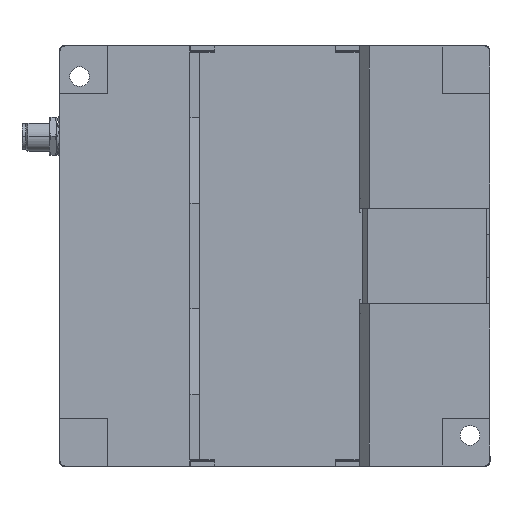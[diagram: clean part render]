
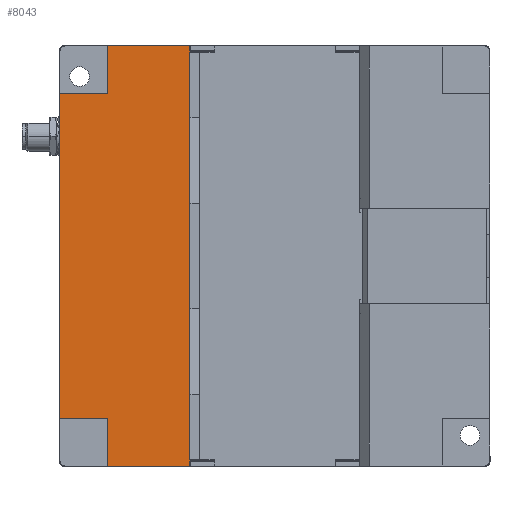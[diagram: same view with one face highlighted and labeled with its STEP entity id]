
A CAD part, front view. The second image highlights one B-rep face of the part: STEP entity #8043.
In plain terms, the highlighted planar face has unit normal (0, -1, 0).
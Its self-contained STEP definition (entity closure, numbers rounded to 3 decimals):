
#145 = DIRECTION ( 'NONE',  ( 0., 0., 1. ) ) ;
#273 = VECTOR ( 'NONE', #35163, 1000. ) ;
#2192 = VERTEX_POINT ( 'NONE', #12469 ) ;
#2677 = DIRECTION ( 'NONE',  ( 0., 1., 0. ) ) ;
#2789 = EDGE_CURVE ( 'NONE', #17184, #14215, #16725, .T. ) ;
#3341 = CARTESIAN_POINT ( 'NONE',  ( -22.4, 15.654, 11. ) ) ;
#3425 = VERTEX_POINT ( 'NONE', #9959 ) ;
#4071 = AXIS2_PLACEMENT_3D ( 'NONE', #9345, #2677, #12742 ) ;
#4182 = DIRECTION ( 'NONE',  ( 0., 0., 1. ) ) ;
#4640 = CARTESIAN_POINT ( 'NONE',  ( -22.4, 15.654, 44. ) ) ;
#4672 = VERTEX_POINT ( 'NONE', #21232 ) ;
#4725 = VECTOR ( 'NONE', #13588, 1000. ) ;
#4757 = DIRECTION ( 'NONE',  ( 0., 0., 1. ) ) ;
#5342 = DIRECTION ( 'NONE',  ( 1., 0., 0. ) ) ;
#6236 = VERTEX_POINT ( 'NONE', #25441 ) ;
#6343 = LINE ( 'NONE', #7598, #23648 ) ;
#6645 = CARTESIAN_POINT ( 'NONE',  ( -49.65, 15.654, -43.913 ) ) ;
#7013 = LINE ( 'NONE', #40520, #24365 ) ;
#7598 = CARTESIAN_POINT ( 'NONE',  ( -49.65, 15.654, -34. ) ) ;
#7781 = ORIENTED_EDGE ( 'NONE', *, *, #34509, .F. ) ;
#8043 = ADVANCED_FACE ( 'NONE', ( #17173 ), #32324, .F. ) ;
#8186 = VECTOR ( 'NONE', #4182, 1000. ) ;
#8250 = LINE ( 'NONE', #4640, #20482 ) ;
#8323 = CARTESIAN_POINT ( 'NONE',  ( -49.563, 15.654, 34. ) ) ;
#8513 = EDGE_CURVE ( 'NONE', #17184, #32084, #25243, .T. ) ;
#8596 = CARTESIAN_POINT ( 'NONE',  ( -22.4, 15.654, 44. ) ) ;
#9242 = CARTESIAN_POINT ( 'NONE',  ( -39.65, 15.654, -43.913 ) ) ;
#9345 = CARTESIAN_POINT ( 'NONE',  ( -49.65, 15.654, 44. ) ) ;
#9576 = ORIENTED_EDGE ( 'NONE', *, *, #41287, .F. ) ;
#9750 = CARTESIAN_POINT ( 'NONE',  ( -22.4, 15.654, 29. ) ) ;
#9772 = EDGE_CURVE ( 'NONE', #4672, #14215, #18274, .T. ) ;
#9959 = CARTESIAN_POINT ( 'NONE',  ( -22.4, 15.654, -43.913 ) ) ;
#10236 = VECTOR ( 'NONE', #26117, 1000. ) ;
#11016 = DIRECTION ( 'NONE',  ( 0., 0., -1. ) ) ;
#11142 = DIRECTION ( 'NONE',  ( -1., 0., 0. ) ) ;
#11228 = LINE ( 'NONE', #35663, #19893 ) ;
#12125 = VECTOR ( 'NONE', #35598, 1000. ) ;
#12269 = LINE ( 'NONE', #18015, #23492 ) ;
#12469 = CARTESIAN_POINT ( 'NONE',  ( -22.4, 15.654, -29. ) ) ;
#12742 = DIRECTION ( 'NONE',  ( -1., 0., 0. ) ) ;
#13173 = CARTESIAN_POINT ( 'NONE',  ( -22.4, 15.654, 44. ) ) ;
#13362 = EDGE_CURVE ( 'NONE', #26823, #6236, #11228, .T. ) ;
#13588 = DIRECTION ( 'NONE',  ( 1., 0., 0. ) ) ;
#14215 = VERTEX_POINT ( 'NONE', #3341 ) ;
#15331 = EDGE_CURVE ( 'NONE', #3425, #26823, #36681, .T. ) ;
#15727 = ORIENTED_EDGE ( 'NONE', *, *, #25413, .F. ) ;
#16725 = LINE ( 'NONE', #22582, #12125 ) ;
#17159 = EDGE_CURVE ( 'NONE', #38144, #32084, #37873, .T. ) ;
#17173 = FACE_OUTER_BOUND ( 'NONE', #24034, .T. ) ;
#17184 = VERTEX_POINT ( 'NONE', #9750 ) ;
#18015 = CARTESIAN_POINT ( 'NONE',  ( -49.65, 15.654, 34. ) ) ;
#18274 = LINE ( 'NONE', #13173, #21827 ) ;
#19046 = VERTEX_POINT ( 'NONE', #24856 ) ;
#19529 = ORIENTED_EDGE ( 'NONE', *, *, #15331, .F. ) ;
#19893 = VECTOR ( 'NONE', #145, 1000. ) ;
#20482 = VECTOR ( 'NONE', #11016, 1000. ) ;
#21232 = CARTESIAN_POINT ( 'NONE',  ( -22.4, 15.654, -11. ) ) ;
#21524 = ORIENTED_EDGE ( 'NONE', *, *, #13362, .F. ) ;
#21827 = VECTOR ( 'NONE', #36044, 1000. ) ;
#21995 = EDGE_CURVE ( 'NONE', #3425, #2192, #27035, .T. ) ;
#22582 = CARTESIAN_POINT ( 'NONE',  ( -22.4, 15.654, 44. ) ) ;
#23492 = VECTOR ( 'NONE', #5342, 1000. ) ;
#23513 = ORIENTED_EDGE ( 'NONE', *, *, #8513, .T. ) ;
#23648 = VECTOR ( 'NONE', #11142, 1000. ) ;
#23963 = CARTESIAN_POINT ( 'NONE',  ( -22.4, 15.654, 44. ) ) ;
#24034 = EDGE_LOOP ( 'NONE', ( #15727, #21524, #19529, #28998, #7781, #25162, #33565, #23513, #40453, #38565, #30509, #9576 ) ) ;
#24365 = VECTOR ( 'NONE', #4757, 1000. ) ;
#24750 = VERTEX_POINT ( 'NONE', #8323 ) ;
#24856 = CARTESIAN_POINT ( 'NONE',  ( -49.563, 15.654, -34. ) ) ;
#25162 = ORIENTED_EDGE ( 'NONE', *, *, #9772, .T. ) ;
#25243 = LINE ( 'NONE', #8596, #273 ) ;
#25413 = EDGE_CURVE ( 'NONE', #6236, #19046, #6343, .T. ) ;
#25441 = CARTESIAN_POINT ( 'NONE',  ( -39.65, 15.654, -34. ) ) ;
#26117 = DIRECTION ( 'NONE',  ( 0., 0., 1. ) ) ;
#26823 = VERTEX_POINT ( 'NONE', #9242 ) ;
#26866 = CARTESIAN_POINT ( 'NONE',  ( -39.65, 15.654, 34. ) ) ;
#27035 = LINE ( 'NONE', #23963, #8186 ) ;
#28998 = ORIENTED_EDGE ( 'NONE', *, *, #21995, .T. ) ;
#30509 = ORIENTED_EDGE ( 'NONE', *, *, #34565, .F. ) ;
#32084 = VERTEX_POINT ( 'NONE', #41122 ) ;
#32324 = PLANE ( 'NONE',  #4071 ) ;
#33080 = VECTOR ( 'NONE', #38874, 1000. ) ;
#33565 = ORIENTED_EDGE ( 'NONE', *, *, #2789, .F. ) ;
#34509 = EDGE_CURVE ( 'NONE', #4672, #2192, #8250, .T. ) ;
#34565 = EDGE_CURVE ( 'NONE', #24750, #39435, #12269, .T. ) ;
#35163 = DIRECTION ( 'NONE',  ( 0., 0., 1. ) ) ;
#35426 = CARTESIAN_POINT ( 'NONE',  ( -39.65, 15.654, 43.913 ) ) ;
#35598 = DIRECTION ( 'NONE',  ( 0., 0., -1. ) ) ;
#35663 = CARTESIAN_POINT ( 'NONE',  ( -39.65, 15.654, 44. ) ) ;
#36032 = CARTESIAN_POINT ( 'NONE',  ( -49.65, 15.654, 43.913 ) ) ;
#36044 = DIRECTION ( 'NONE',  ( 0., 0., 1. ) ) ;
#36681 = LINE ( 'NONE', #6645, #33080 ) ;
#37873 = LINE ( 'NONE', #36032, #4725 ) ;
#38144 = VERTEX_POINT ( 'NONE', #35426 ) ;
#38366 = LINE ( 'NONE', #39514, #10236 ) ;
#38565 = ORIENTED_EDGE ( 'NONE', *, *, #39889, .F. ) ;
#38874 = DIRECTION ( 'NONE',  ( -1., 0., 0. ) ) ;
#39435 = VERTEX_POINT ( 'NONE', #26866 ) ;
#39514 = CARTESIAN_POINT ( 'NONE',  ( -39.65, 15.654, 44. ) ) ;
#39889 = EDGE_CURVE ( 'NONE', #39435, #38144, #38366, .T. ) ;
#40453 = ORIENTED_EDGE ( 'NONE', *, *, #17159, .F. ) ;
#40520 = CARTESIAN_POINT ( 'NONE',  ( -49.563, 15.654, 44. ) ) ;
#41122 = CARTESIAN_POINT ( 'NONE',  ( -22.4, 15.654, 43.913 ) ) ;
#41287 = EDGE_CURVE ( 'NONE', #19046, #24750, #7013, .T. ) ;
